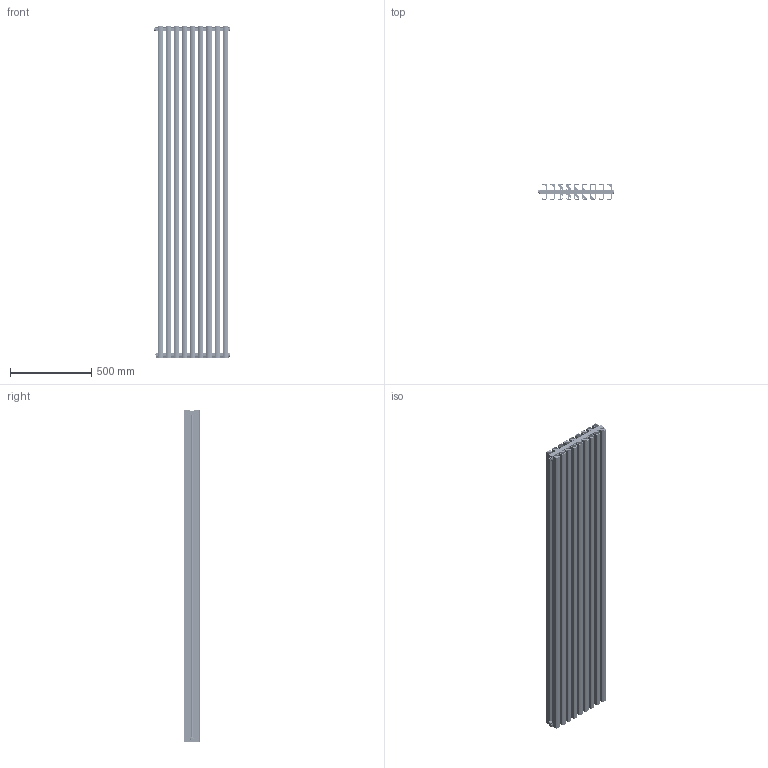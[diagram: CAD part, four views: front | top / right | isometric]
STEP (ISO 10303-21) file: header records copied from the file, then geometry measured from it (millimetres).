
FILE_DESCRIPTION (( 'STEP AP214' ), '1' );
FILE_NAME ('TONALE 2000_9.STEP', '2024-07-22T08:41:49', ( '' ), ( '' ), 'SwSTEP 2.0', 'SolidWorks 2024', '' );
FILE_SCHEMA (( 'AUTOMOTIVE_DESIGN' ));
Length unit declared in the file: millimetre
Products named in the file (12): O-RING 2,4 D16,3; ETV600G_foro Ø 4; EPC10022D_1000; Assieme vitone con o_ring; P3EL00004A_9 elementi; Art.041; Art.011; P3EL00002A_2000; TONALE 2000_9; Coperchietto; P3EL00004A_9 elementi CS
Assembly tree (51 placements, depth 3):
  TONALE 2000_9
    EPC10022D_1000  x9
    Art.011  x3
      Art.011
      Coperchietto
    Art.041
    Art.011  x4
    P3EL00002A_2000  x9
    P3EL00004A_9 elementi CS
    Assieme vitone con o_ring  x18
      ETV600G_foro Ø 4
      O-RING 2,4 D16,3
    P3EL00004A_9 elementi
Bounding box: 466.3 x 95 x 2039.3 mm (x, y, z)
Volume: 10822157.2 mm3; surface area: 13245046.3 mm2
Topology: 88 solids, 88 shells, 5467 faces, 15006 edges, 9550 vertices
Faces by surface type: plane 2336, cylinder 2269, cone 521, torus 173, bspline 132, sphere 36
Entity records: 34883 total; most frequent: CARTESIAN_POINT 12832, ORIENTED_EDGE 4526, DIRECTION 4517, EDGE_CURVE 2263, AXIS2_PLACEMENT_3D 1614, VERTEX_POINT 1467, LINE 1289, VECTOR 1289
